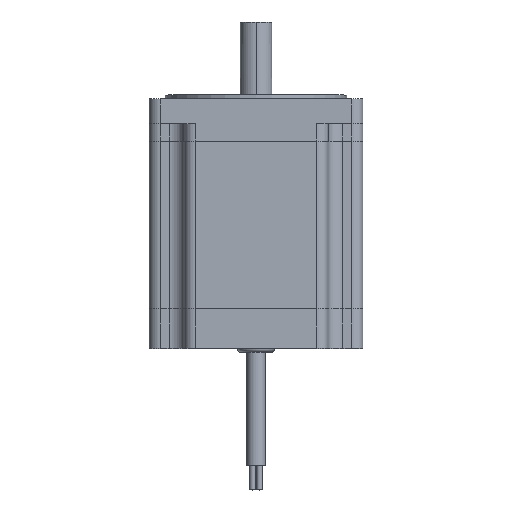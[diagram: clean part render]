
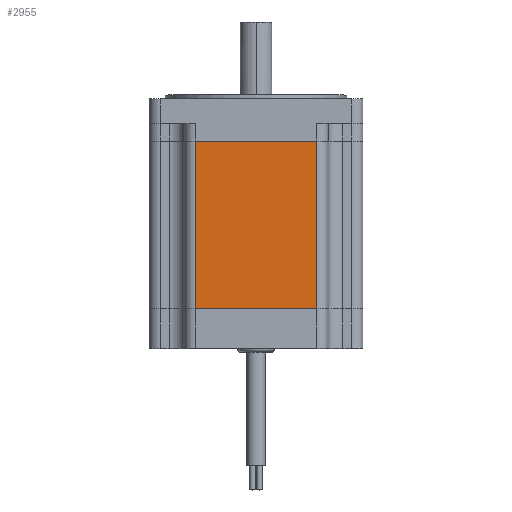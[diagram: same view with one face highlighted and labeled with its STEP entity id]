
A CAD part, top view. The second image highlights one B-rep face of the part: STEP entity #2955.
In plain terms, the highlighted planar face has unit normal (0, 0, 1).
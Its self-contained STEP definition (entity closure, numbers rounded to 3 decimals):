
#2395=DIRECTION('',(0.,1.,0.));
#2396=VECTOR('',#2395,67.5);
#2397=CARTESIAN_POINT('',(24.47,0.,43.));
#2398=LINE('',#2397,#2396);
#2403=DIRECTION('',(-1.,0.,0.));
#2404=VECTOR('',#2403,48.94);
#2405=CARTESIAN_POINT('',(24.47,0.,43.));
#2406=LINE('',#2405,#2404);
#2411=DIRECTION('',(0.,-1.,0.));
#2412=VECTOR('',#2411,67.5);
#2413=CARTESIAN_POINT('',(-24.47,67.5,43.));
#2414=LINE('',#2413,#2412);
#2526=DIRECTION('',(-1.,0.,0.));
#2527=VECTOR('',#2526,48.94);
#2528=CARTESIAN_POINT('',(24.47,67.5,43.));
#2529=LINE('',#2528,#2527);
#2615=CARTESIAN_POINT('',(-24.47,0.,43.));
#2616=VERTEX_POINT('',#2615);
#2617=CARTESIAN_POINT('',(24.47,0.,43.));
#2618=VERTEX_POINT('',#2617);
#2671=CARTESIAN_POINT('',(24.47,67.5,43.));
#2672=VERTEX_POINT('',#2671);
#2673=CARTESIAN_POINT('',(-24.47,67.5,43.));
#2674=VERTEX_POINT('',#2673);
#2942=CARTESIAN_POINT('',(-28.97,0.,43.));
#2943=DIRECTION('',(0.,0.,1.));
#2944=DIRECTION('',(1.,0.,0.));
#2945=AXIS2_PLACEMENT_3D('',#2942,#2943,#2944);
#2946=PLANE('',#2945);
#2948=ORIENTED_EDGE('',*,*,#2947,.F.);
#2950=ORIENTED_EDGE('',*,*,#2949,.F.);
#2951=ORIENTED_EDGE('',*,*,#2934,.F.);
#2952=ORIENTED_EDGE('',*,*,#2724,.T.);
#2953=EDGE_LOOP('',(#2948,#2950,#2951,#2952));
#2954=FACE_OUTER_BOUND('',#2953,.F.);
#2955=ADVANCED_FACE('',(#2954),#2946,.T.);
#2724=EDGE_CURVE('',#2618,#2616,#2406,.T.);
#2934=EDGE_CURVE('',#2618,#2672,#2398,.T.);
#2947=EDGE_CURVE('',#2674,#2616,#2414,.T.);
#2949=EDGE_CURVE('',#2672,#2674,#2529,.T.);
